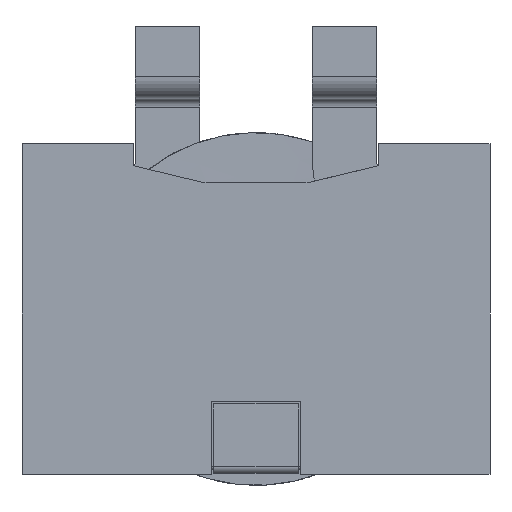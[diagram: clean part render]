
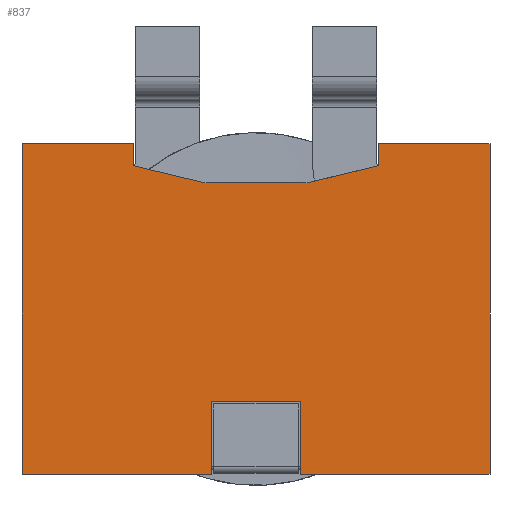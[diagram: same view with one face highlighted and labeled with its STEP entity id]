
A CAD part, left-side view. The second image highlights one B-rep face of the part: STEP entity #837.
In plain terms, the highlighted planar face has unit normal (-1, 0, 0).
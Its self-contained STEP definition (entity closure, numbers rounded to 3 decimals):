
#2=DIRECTION('',(0.,0.,1.));
#3=VECTOR('',#2,19.5);
#4=CARTESIAN_POINT('',(0.,13.8,-9.75));
#5=LINE('',#4,#3);
#6=DIRECTION('',(0.,0.,-1.));
#7=VECTOR('',#6,1.3);
#8=CARTESIAN_POINT('',(0.,7.25,9.75));
#9=LINE('',#8,#7);
#10=DIRECTION('',(0.,-0.972,-0.233));
#11=VECTOR('',#10,4.201);
#12=CARTESIAN_POINT('',(0.,7.25,8.45));
#13=LINE('',#12,#11);
#14=DIRECTION('',(0.,-1.,0.));
#15=VECTOR('',#14,5.863);
#16=CARTESIAN_POINT('',(0.,2.932,7.442));
#17=LINE('',#16,#15);
#18=DIRECTION('',(0.,-0.972,0.233));
#19=VECTOR('',#18,4.201);
#20=CARTESIAN_POINT('',(0.,-3.165,7.469));
#21=LINE('',#20,#19);
#22=DIRECTION('',(0.,0.,1.));
#23=VECTOR('',#22,1.3);
#24=CARTESIAN_POINT('',(0.,-7.25,8.45));
#25=LINE('',#24,#23);
#26=DIRECTION('',(0.,0.,-1.));
#27=VECTOR('',#26,19.5);
#28=CARTESIAN_POINT('',(0.,-13.8,9.75));
#29=LINE('',#28,#27);
#30=DIRECTION('',(0.,0.,1.));
#31=VECTOR('',#30,4.3);
#32=CARTESIAN_POINT('',(0.,-2.65,-9.75));
#33=LINE('',#32,#31);
#34=DIRECTION('',(0.,1.,0.));
#35=VECTOR('',#34,5.3);
#36=CARTESIAN_POINT('',(0.,-2.65,-5.45));
#37=LINE('',#36,#35);
#38=DIRECTION('',(0.,0.,1.));
#39=VECTOR('',#38,4.3);
#40=CARTESIAN_POINT('',(0.,2.65,-9.75));
#41=LINE('',#40,#39);
#46=DIRECTION('',(0.,-1.,0.));
#47=VECTOR('',#46,11.15);
#48=CARTESIAN_POINT('',(0.,13.8,-9.75));
#49=LINE('',#48,#47);
#50=DIRECTION('',(0.,-1.,0.));
#51=VECTOR('',#50,11.15);
#52=CARTESIAN_POINT('',(0.,-2.65,-9.75));
#53=LINE('',#52,#51);
#179=CARTESIAN_POINT('',(0.,-2.932,8.442));
#180=DIRECTION('',(1.,0.,0.));
#181=DIRECTION('',(0.,-0.233,-0.972));
#182=AXIS2_PLACEMENT_3D('',#179,#180,#181);
#202=CARTESIAN_POINT('',(0.,2.932,8.442));
#203=DIRECTION('',(1.,0.,0.));
#204=DIRECTION('',(0.,0.,-1.));
#205=AXIS2_PLACEMENT_3D('',#202,#203,#204);
#223=DIRECTION('',(0.,1.,0.));
#224=VECTOR('',#223,6.55);
#225=CARTESIAN_POINT('',(0.,7.25,9.75));
#226=LINE('',#225,#224);
#275=DIRECTION('',(0.,1.,0.));
#276=VECTOR('',#275,6.55);
#277=CARTESIAN_POINT('',(0.,-13.8,9.75));
#278=LINE('',#277,#276);
#606=CARTESIAN_POINT('',(0.,7.25,9.75));
#607=CARTESIAN_POINT('',(0.,7.25,8.45));
#608=VERTEX_POINT('',#606);
#609=VERTEX_POINT('',#607);
#610=CARTESIAN_POINT('',(0.,-7.25,8.45));
#611=CARTESIAN_POINT('',(0.,-7.25,9.75));
#612=VERTEX_POINT('',#610);
#613=VERTEX_POINT('',#611);
#640=CARTESIAN_POINT('',(0.,-2.65,-9.75));
#641=CARTESIAN_POINT('',(0.,-2.65,-5.45));
#642=VERTEX_POINT('',#640);
#643=VERTEX_POINT('',#641);
#644=CARTESIAN_POINT('',(0.,2.65,-5.45));
#645=VERTEX_POINT('',#644);
#646=CARTESIAN_POINT('',(0.,2.65,-9.75));
#647=VERTEX_POINT('',#646);
#723=CARTESIAN_POINT('',(0.,3.165,7.469));
#725=VERTEX_POINT('',#723);
#727=CARTESIAN_POINT('',(0.,2.932,7.442));
#729=VERTEX_POINT('',#727);
#730=CARTESIAN_POINT('',(0.,-3.165,7.469));
#732=VERTEX_POINT('',#730);
#734=CARTESIAN_POINT('',(0.,-2.932,7.442));
#736=VERTEX_POINT('',#734);
#738=CARTESIAN_POINT('',(0.,-13.8,9.75));
#739=CARTESIAN_POINT('',(0.,-13.8,-9.75));
#740=VERTEX_POINT('',#738);
#741=VERTEX_POINT('',#739);
#742=CARTESIAN_POINT('',(0.,13.8,-9.75));
#743=CARTESIAN_POINT('',(0.,13.8,9.75));
#744=VERTEX_POINT('',#742);
#745=VERTEX_POINT('',#743);
#798=CARTESIAN_POINT('',(0.,0.,0.));
#799=DIRECTION('',(1.,0.,0.));
#800=DIRECTION('',(0.,-1.,0.));
#801=AXIS2_PLACEMENT_3D('',#798,#799,#800);
#802=PLANE('',#801);
#804=ORIENTED_EDGE('',*,*,#803,.F.);
#806=ORIENTED_EDGE('',*,*,#805,.T.);
#808=ORIENTED_EDGE('',*,*,#807,.F.);
#810=ORIENTED_EDGE('',*,*,#809,.T.);
#812=ORIENTED_EDGE('',*,*,#811,.T.);
#814=ORIENTED_EDGE('',*,*,#813,.F.);
#816=ORIENTED_EDGE('',*,*,#815,.T.);
#818=ORIENTED_EDGE('',*,*,#817,.F.);
#820=ORIENTED_EDGE('',*,*,#819,.T.);
#822=ORIENTED_EDGE('',*,*,#821,.T.);
#824=ORIENTED_EDGE('',*,*,#823,.F.);
#826=ORIENTED_EDGE('',*,*,#825,.T.);
#828=ORIENTED_EDGE('',*,*,#827,.F.);
#830=ORIENTED_EDGE('',*,*,#829,.T.);
#832=ORIENTED_EDGE('',*,*,#831,.T.);
#834=ORIENTED_EDGE('',*,*,#833,.F.);
#835=EDGE_LOOP('',(#804,#806,#808,#810,#812,#814,#816,#818,#820,#822,#824,#826,
#828,#830,#832,#834));
#836=FACE_OUTER_BOUND('',#835,.F.);
#837=ADVANCED_FACE('',(#836),#802,.F.);
#183=CIRCLE('',#182,1.);
#206=CIRCLE('',#205,1.);
#803=EDGE_CURVE('',#744,#647,#49,.T.);
#805=EDGE_CURVE('',#744,#745,#5,.T.);
#807=EDGE_CURVE('',#608,#745,#226,.T.);
#809=EDGE_CURVE('',#608,#609,#9,.T.);
#811=EDGE_CURVE('',#609,#725,#13,.T.);
#813=EDGE_CURVE('',#729,#725,#206,.T.);
#815=EDGE_CURVE('',#729,#736,#17,.T.);
#817=EDGE_CURVE('',#732,#736,#183,.T.);
#819=EDGE_CURVE('',#732,#612,#21,.T.);
#821=EDGE_CURVE('',#612,#613,#25,.T.);
#823=EDGE_CURVE('',#740,#613,#278,.T.);
#825=EDGE_CURVE('',#740,#741,#29,.T.);
#827=EDGE_CURVE('',#642,#741,#53,.T.);
#829=EDGE_CURVE('',#642,#643,#33,.T.);
#831=EDGE_CURVE('',#643,#645,#37,.T.);
#833=EDGE_CURVE('',#647,#645,#41,.T.);
